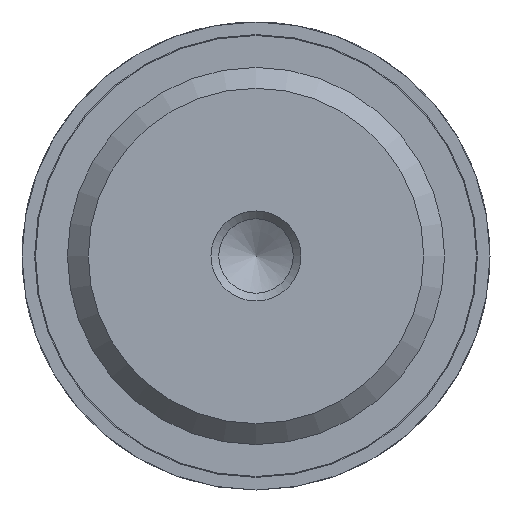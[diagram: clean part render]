
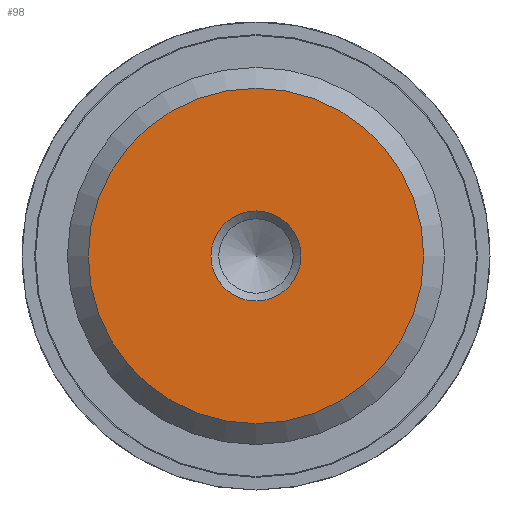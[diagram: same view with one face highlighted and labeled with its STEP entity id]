
A CAD part, front view. The second image highlights one B-rep face of the part: STEP entity #98.
In plain terms, the highlighted planar face has unit normal (0, -1, 0).
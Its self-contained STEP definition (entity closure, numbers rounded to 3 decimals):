
#98 = ADVANCED_FACE( '', ( #166, #167 ), #168, .F. );
#166 = FACE_BOUND( '', #245, .T. );
#167 = FACE_OUTER_BOUND( '', #246, .T. );
#168 = PLANE( '', #247 );
#245 = EDGE_LOOP( '', ( #408 ) );
#246 = EDGE_LOOP( '', ( #409 ) );
#247 = AXIS2_PLACEMENT_3D( '', #410, #411, #412 );
#408 = ORIENTED_EDGE( '', *, *, #474, .F. );
#409 = ORIENTED_EDGE( '', *, *, #478, .T. );
#410 = CARTESIAN_POINT( '', ( 9.316, 0., 0. ) );
#411 = DIRECTION( '', ( 0., 1., 0. ) );
#412 = DIRECTION( '', ( 0., 0., 1. ) );
#474 = EDGE_CURVE( '', #545, #545, #546, .T. );
#478 = EDGE_CURVE( '', #551, #551, #552, .T. );
#545 = VERTEX_POINT( '', #769 );
#546 = CIRCLE( '', #770, 2.5 );
#551 = VERTEX_POINT( '', #775 );
#552 = CIRCLE( '', #776, 9.316 );
#769 = CARTESIAN_POINT( '', ( 2.5, 0., 0. ) );
#770 = AXIS2_PLACEMENT_3D( '', #850, #851, #852 );
#775 = CARTESIAN_POINT( '', ( 0., 0., -9.316 ) );
#776 = AXIS2_PLACEMENT_3D( '', #859, #860, #861 );
#850 = CARTESIAN_POINT( '', ( 0., 0., 0. ) );
#851 = DIRECTION( '', ( 0., -1., 0. ) );
#852 = DIRECTION( '', ( 1., 0., 0. ) );
#859 = CARTESIAN_POINT( '', ( 0., 0., 0. ) );
#860 = DIRECTION( '', ( 0., -1., 0. ) );
#861 = DIRECTION( '', ( 0., 0., -1. ) );
